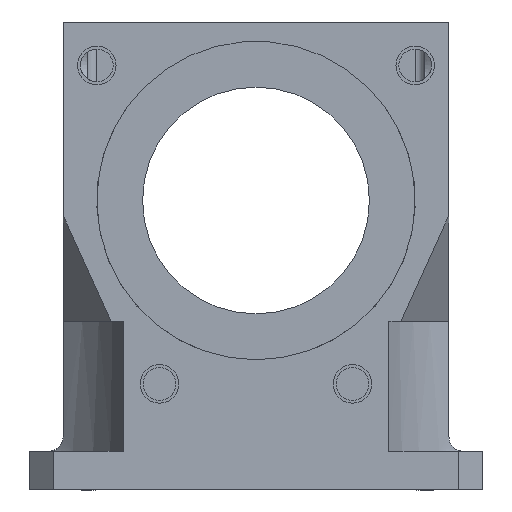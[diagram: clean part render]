
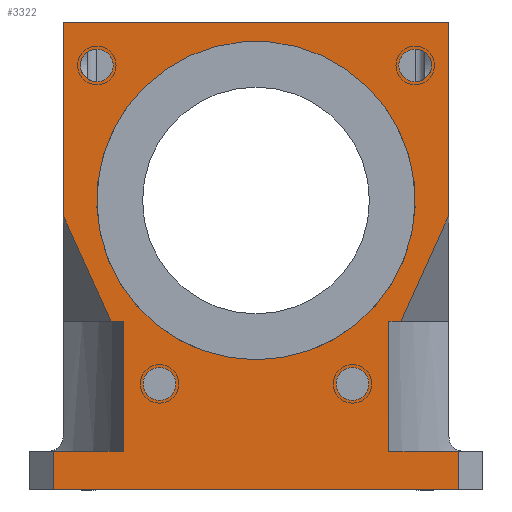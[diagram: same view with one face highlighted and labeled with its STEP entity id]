
A CAD part, front view. The second image highlights one B-rep face of the part: STEP entity #3322.
In plain terms, the highlighted planar face has unit normal (0, -1, 0).
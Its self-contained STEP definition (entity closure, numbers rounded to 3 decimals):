
#122=DIRECTION('',(1.,0.,0.));
#123=VECTOR('',#122,84.);
#124=CARTESIAN_POINT('',(-42.,0.,0.));
#125=LINE('',#124,#123);
#192=DIRECTION('',(-1.,0.,0.));
#193=VECTOR('',#192,14.47);
#194=CARTESIAN_POINT('',(42.,0.,8.));
#195=LINE('',#194,#193);
#645=CARTESIAN_POINT('',(0.,0.,60.));
#646=DIRECTION('',(0.,1.,0.));
#647=DIRECTION('',(0.697,0.,0.717));
#648=AXIS2_PLACEMENT_3D('',#645,#646,#647);
#669=CARTESIAN_POINT('',(20.,0.,22.));
#670=DIRECTION('',(0.,-1.,0.));
#671=DIRECTION('',(-1.,0.,0.));
#672=AXIS2_PLACEMENT_3D('',#669,#670,#671);
#674=CARTESIAN_POINT('',(20.,0.,22.));
#675=DIRECTION('',(0.,-1.,0.));
#676=DIRECTION('',(1.,0.,0.));
#677=AXIS2_PLACEMENT_3D('',#674,#675,#676);
#679=CARTESIAN_POINT('',(33.,0.,88.));
#680=DIRECTION('',(0.,-1.,0.));
#681=DIRECTION('',(-1.,0.,0.));
#682=AXIS2_PLACEMENT_3D('',#679,#680,#681);
#684=CARTESIAN_POINT('',(33.,0.,88.));
#685=DIRECTION('',(0.,-1.,0.));
#686=DIRECTION('',(1.,0.,0.));
#687=AXIS2_PLACEMENT_3D('',#684,#685,#686);
#689=CARTESIAN_POINT('',(-20.,0.,22.));
#690=DIRECTION('',(0.,1.,0.));
#691=DIRECTION('',(1.,0.,0.));
#692=AXIS2_PLACEMENT_3D('',#689,#690,#691);
#694=CARTESIAN_POINT('',(-20.,0.,22.));
#695=DIRECTION('',(0.,1.,0.));
#696=DIRECTION('',(-1.,0.,0.));
#697=AXIS2_PLACEMENT_3D('',#694,#695,#696);
#699=CARTESIAN_POINT('',(-33.,0.,88.));
#700=DIRECTION('',(0.,1.,0.));
#701=DIRECTION('',(1.,0.,0.));
#702=AXIS2_PLACEMENT_3D('',#699,#700,#701);
#704=CARTESIAN_POINT('',(-33.,0.,88.));
#705=DIRECTION('',(0.,1.,0.));
#706=DIRECTION('',(-1.,0.,0.));
#707=AXIS2_PLACEMENT_3D('',#704,#705,#706);
#709=CARTESIAN_POINT('',(0.,0.,60.));
#710=DIRECTION('',(0.,1.,0.));
#711=DIRECTION('',(-0.697,0.,0.717));
#712=AXIS2_PLACEMENT_3D('',#709,#710,#711);
#714=DIRECTION('',(0.414,0.,-0.91));
#715=VECTOR('',#714,24.166);
#716=CARTESIAN_POINT('',(-40.,0.,57.));
#717=LINE('',#716,#715);
#718=DIRECTION('',(0.,0.,1.));
#719=VECTOR('',#718,40.);
#720=CARTESIAN_POINT('',(-40.,0.,57.));
#721=LINE('',#720,#719);
#722=DIRECTION('',(0.,0.,1.));
#723=VECTOR('',#722,40.);
#724=CARTESIAN_POINT('',(40.,0.,57.));
#725=LINE('',#724,#723);
#726=DIRECTION('',(-0.414,0.,-0.91));
#727=VECTOR('',#726,24.166);
#728=CARTESIAN_POINT('',(40.,0.,57.));
#729=LINE('',#728,#727);
#730=DIRECTION('',(0.,0.,1.));
#731=VECTOR('',#730,27.);
#732=CARTESIAN_POINT('',(27.53,0.,8.));
#733=LINE('',#732,#731);
#734=DIRECTION('',(0.,0.,-1.));
#735=VECTOR('',#734,8.);
#736=CARTESIAN_POINT('',(42.,0.,8.));
#737=LINE('',#736,#735);
#738=DIRECTION('',(0.,0.,-1.));
#739=VECTOR('',#738,8.);
#740=CARTESIAN_POINT('',(-42.,0.,8.));
#741=LINE('',#740,#739);
#742=DIRECTION('',(0.,0.,-1.));
#743=VECTOR('',#742,27.);
#744=CARTESIAN_POINT('',(-27.53,0.,35.));
#745=LINE('',#744,#743);
#842=DIRECTION('',(-1.,0.,0.));
#843=VECTOR('',#842,80.);
#844=CARTESIAN_POINT('',(40.,0.,97.));
#845=LINE('',#844,#843);
#1632=DIRECTION('',(1.,0.,0.));
#1633=VECTOR('',#1632,2.47);
#1634=CARTESIAN_POINT('',(-30.,0.,35.));
#1635=LINE('',#1634,#1633);
#1650=DIRECTION('',(-1.,0.,0.));
#1651=VECTOR('',#1650,14.47);
#1652=CARTESIAN_POINT('',(-27.53,0.,8.));
#1653=LINE('',#1652,#1651);
#2037=DIRECTION('',(1.,0.,0.));
#2038=VECTOR('',#2037,2.47);
#2039=CARTESIAN_POINT('',(27.53,0.,35.));
#2040=LINE('',#2039,#2038);
#2164=CARTESIAN_POINT('',(42.,0.,0.));
#2166=VERTEX_POINT('',#2164);
#2167=CARTESIAN_POINT('',(42.,0.,8.));
#2168=VERTEX_POINT('',#2167);
#2171=CARTESIAN_POINT('',(-42.,0.,0.));
#2173=VERTEX_POINT('',#2171);
#2177=CARTESIAN_POINT('',(-42.,0.,8.));
#2178=VERTEX_POINT('',#2177);
#2196=CARTESIAN_POINT('',(27.53,0.,35.));
#2198=VERTEX_POINT('',#2196);
#2199=CARTESIAN_POINT('',(27.53,0.,8.));
#2200=VERTEX_POINT('',#2199);
#2202=CARTESIAN_POINT('',(-27.53,0.,35.));
#2204=VERTEX_POINT('',#2202);
#2205=CARTESIAN_POINT('',(-27.53,0.,8.));
#2206=VERTEX_POINT('',#2205);
#2355=CARTESIAN_POINT('',(16.6,0.,22.));
#2356=CARTESIAN_POINT('',(23.4,0.,22.));
#2357=VERTEX_POINT('',#2355);
#2358=VERTEX_POINT('',#2356);
#2363=CARTESIAN_POINT('',(29.6,0.,88.));
#2364=CARTESIAN_POINT('',(36.4,0.,88.));
#2365=VERTEX_POINT('',#2363);
#2366=VERTEX_POINT('',#2364);
#2372=CARTESIAN_POINT('',(-16.6,0.,22.));
#2374=VERTEX_POINT('',#2372);
#2376=CARTESIAN_POINT('',(-23.4,0.,22.));
#2378=VERTEX_POINT('',#2376);
#2380=CARTESIAN_POINT('',(-29.6,0.,88.));
#2382=VERTEX_POINT('',#2380);
#2384=CARTESIAN_POINT('',(-36.4,0.,88.));
#2386=VERTEX_POINT('',#2384);
#2429=CARTESIAN_POINT('',(40.,0.,57.));
#2430=CARTESIAN_POINT('',(30.,0.,35.));
#2431=VERTEX_POINT('',#2429);
#2432=VERTEX_POINT('',#2430);
#2451=CARTESIAN_POINT('',(40.,0.,97.));
#2452=VERTEX_POINT('',#2451);
#2506=CARTESIAN_POINT('',(23.,0.,83.664));
#2508=VERTEX_POINT('',#2506);
#2510=CARTESIAN_POINT('',(-23.,0.,83.664));
#2512=VERTEX_POINT('',#2510);
#2513=CARTESIAN_POINT('',(-40.,0.,97.));
#2514=VERTEX_POINT('',#2513);
#2575=CARTESIAN_POINT('',(-40.,0.,57.));
#2576=CARTESIAN_POINT('',(-30.,0.,35.));
#2577=VERTEX_POINT('',#2575);
#2578=VERTEX_POINT('',#2576);
#3262=CARTESIAN_POINT('',(-47.,0.,0.));
#3263=DIRECTION('',(0.,-1.,0.));
#3264=DIRECTION('',(1.,0.,0.));
#3265=AXIS2_PLACEMENT_3D('',#3262,#3263,#3264);
#3266=PLANE('',#3265);
#3268=ORIENTED_EDGE('',*,*,#3267,.F.);
#3270=ORIENTED_EDGE('',*,*,#3269,.T.);
#3272=ORIENTED_EDGE('',*,*,#3271,.F.);
#3273=ORIENTED_EDGE('',*,*,#2810,.F.);
#3275=ORIENTED_EDGE('',*,*,#3274,.T.);
#3277=ORIENTED_EDGE('',*,*,#3276,.F.);
#3279=ORIENTED_EDGE('',*,*,#3278,.F.);
#3280=ORIENTED_EDGE('',*,*,#2719,.F.);
#3282=ORIENTED_EDGE('',*,*,#3281,.T.);
#3283=ORIENTED_EDGE('',*,*,#2634,.F.);
#3285=ORIENTED_EDGE('',*,*,#3284,.F.);
#3287=ORIENTED_EDGE('',*,*,#3286,.F.);
#3289=ORIENTED_EDGE('',*,*,#3288,.F.);
#3291=ORIENTED_EDGE('',*,*,#3290,.F.);
#3292=EDGE_LOOP('',(#3268,#3270,#3272,#3273,#3275,#3277,#3279,#3280,#3282,#3283,
#3285,#3287,#3289,#3291));
#3293=FACE_OUTER_BOUND('',#3292,.F.);
#3295=ORIENTED_EDGE('',*,*,#3294,.T.);
#3297=ORIENTED_EDGE('',*,*,#3296,.T.);
#3298=EDGE_LOOP('',(#3295,#3297));
#3299=FACE_BOUND('',#3298,.F.);
#3301=ORIENTED_EDGE('',*,*,#3300,.F.);
#3303=ORIENTED_EDGE('',*,*,#3302,.F.);
#3304=EDGE_LOOP('',(#3301,#3303));
#3305=FACE_BOUND('',#3304,.F.);
#3307=ORIENTED_EDGE('',*,*,#3306,.F.);
#3309=ORIENTED_EDGE('',*,*,#3308,.F.);
#3310=EDGE_LOOP('',(#3307,#3309));
#3311=FACE_BOUND('',#3310,.F.);
#3312=ORIENTED_EDGE('',*,*,#3239,.F.);
#3313=ORIENTED_EDGE('',*,*,#3257,.F.);
#3314=EDGE_LOOP('',(#3312,#3313));
#3315=FACE_BOUND('',#3314,.F.);
#3317=ORIENTED_EDGE('',*,*,#3316,.T.);
#3319=ORIENTED_EDGE('',*,*,#3318,.T.);
#3320=EDGE_LOOP('',(#3317,#3319));
#3321=FACE_BOUND('',#3320,.F.);
#3322=ADVANCED_FACE('',(#3293,#3299,#3305,#3311,#3315,#3321),#3266,.T.);
#649=CIRCLE('',#648,33.);
#673=CIRCLE('',#672,3.4);
#678=CIRCLE('',#677,3.4);
#683=CIRCLE('',#682,3.4);
#688=CIRCLE('',#687,3.4);
#693=CIRCLE('',#692,3.4);
#698=CIRCLE('',#697,3.4);
#703=CIRCLE('',#702,3.4);
#708=CIRCLE('',#707,3.4);
#713=CIRCLE('',#712,33.);
#2634=EDGE_CURVE('',#2173,#2166,#125,.T.);
#2719=EDGE_CURVE('',#2168,#2200,#195,.T.);
#2810=EDGE_CURVE('',#2431,#2452,#725,.T.);
#3239=EDGE_CURVE('',#2508,#2512,#649,.T.);
#3257=EDGE_CURVE('',#2512,#2508,#713,.T.);
#3267=EDGE_CURVE('',#2577,#2578,#717,.T.);
#3269=EDGE_CURVE('',#2577,#2514,#721,.T.);
#3271=EDGE_CURVE('',#2452,#2514,#845,.T.);
#3274=EDGE_CURVE('',#2431,#2432,#729,.T.);
#3276=EDGE_CURVE('',#2198,#2432,#2040,.T.);
#3278=EDGE_CURVE('',#2200,#2198,#733,.T.);
#3281=EDGE_CURVE('',#2168,#2166,#737,.T.);
#3284=EDGE_CURVE('',#2178,#2173,#741,.T.);
#3286=EDGE_CURVE('',#2206,#2178,#1653,.T.);
#3288=EDGE_CURVE('',#2204,#2206,#745,.T.);
#3290=EDGE_CURVE('',#2578,#2204,#1635,.T.);
#3294=EDGE_CURVE('',#2365,#2366,#683,.T.);
#3296=EDGE_CURVE('',#2366,#2365,#688,.T.);
#3300=EDGE_CURVE('',#2374,#2378,#693,.T.);
#3302=EDGE_CURVE('',#2378,#2374,#698,.T.);
#3306=EDGE_CURVE('',#2382,#2386,#703,.T.);
#3308=EDGE_CURVE('',#2386,#2382,#708,.T.);
#3316=EDGE_CURVE('',#2357,#2358,#673,.T.);
#3318=EDGE_CURVE('',#2358,#2357,#678,.T.);
